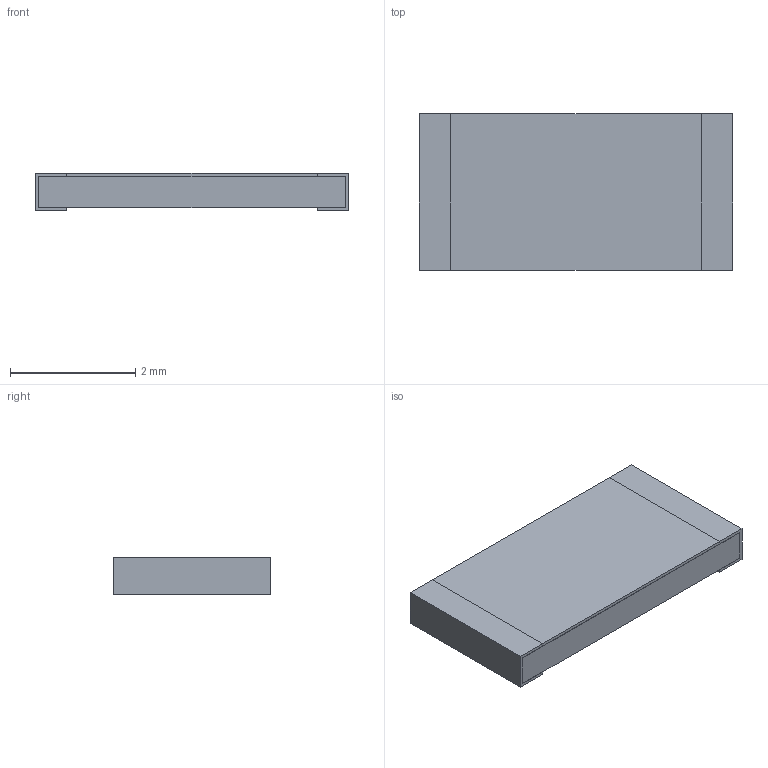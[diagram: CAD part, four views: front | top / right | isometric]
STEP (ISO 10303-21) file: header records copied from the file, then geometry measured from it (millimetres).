
FILE_DESCRIPTION(('STEP AP203'), '1');
FILE_NAME('P1-85-0.5', '', ('UNSPECIFIED'), ('UNSPECIFIED'), 'ASCON STEP Converter 1.6', 'ASCON Math Kernel', '');
FILE_SCHEMA(('CONFIG_CONTROL_DESIGN'));
Length unit declared in the file: millimetre
Bounding box: 5 x 2.5 x 0.6 mm (x, y, z)
Volume: 7 mm3; surface area: 69.4 mm2
Topology: 4 solids, 5 shells, 51 faces, 123 edges, 82 vertices
Faces by surface type: plane 47, cylinder 4
Entity records: 1937 total; most frequent: CARTESIAN_POINT 257, ORIENTED_EDGE 246, DIRECTION 235, EDGE_CURVE 123, LINE 115, VECTOR 115, VERTEX_POINT 82, AXIS2_PLACEMENT_3D 60
